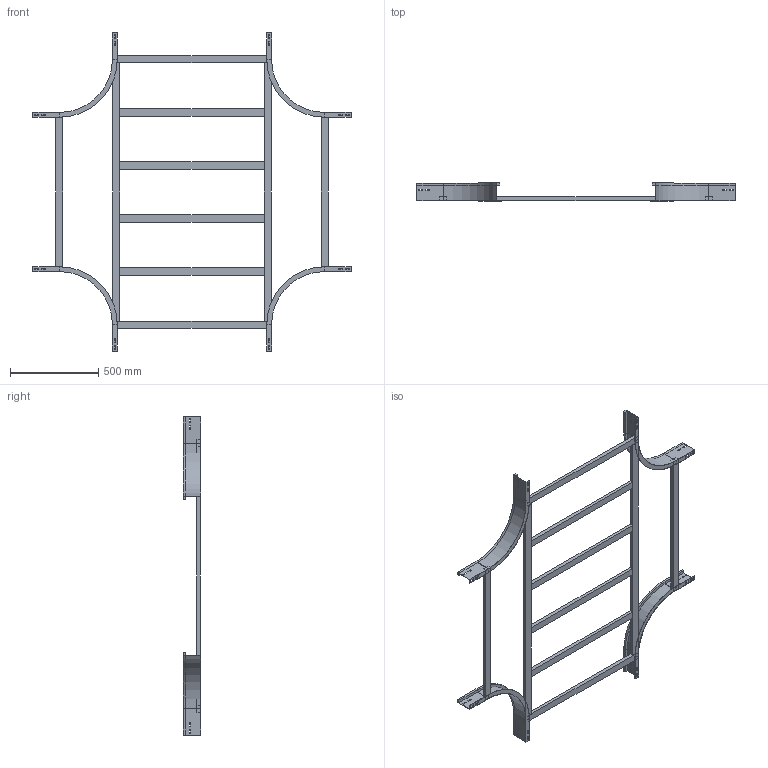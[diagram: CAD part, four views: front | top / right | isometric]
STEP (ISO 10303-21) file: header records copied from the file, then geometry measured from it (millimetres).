
FILE_DESCRIPTION (( 'STEP AP214' ), '1' );
FILE_NAME ('A2_17B3D900.step', '2025-02-21T15:55:22', ( '' ), ( '' ), 'SwSTEP 2.0', 'SolidWorks 2023', '' );
FILE_SCHEMA (( 'AUTOMOTIVE_DESIGN' ));
Length unit declared in the file: millimetre
Products named in the file (5): TRAVERSINO_900; A2_17B3D900; A2_TRAVERSINO_LONG._R300+900; A2_LONGH.INTERNO 90°_H100_R300; TRAVERSINO_INTERMEDIO_R300+900
Assembly tree (14 placements, depth 2):
  A2_17B3D900
    A2_LONGH.INTERNO 90°_H100_R300  x4
    TRAVERSINO_900  x4
    A2_TRAVERSINO_LONG._R300+900  x2
    TRAVERSINO_INTERMEDIO_R300+900  x4
Bounding box: 1800 x 100 x 1800 mm (x, y, z)
Volume: 9279600 mm3; surface area: 2086580.5 mm2
Topology: 14 solids, 14 shells, 292 faces, 728 edges, 464 vertices
Faces by surface type: plane 276, cylinder 16
Entity records: 2458 total; most frequent: CARTESIAN_POINT 401, DIRECTION 382, ORIENTED_EDGE 376, EDGE_CURVE 188, LINE 180, VECTOR 180, VERTEX_POINT 120, AXIS2_PLACEMENT_3D 101
